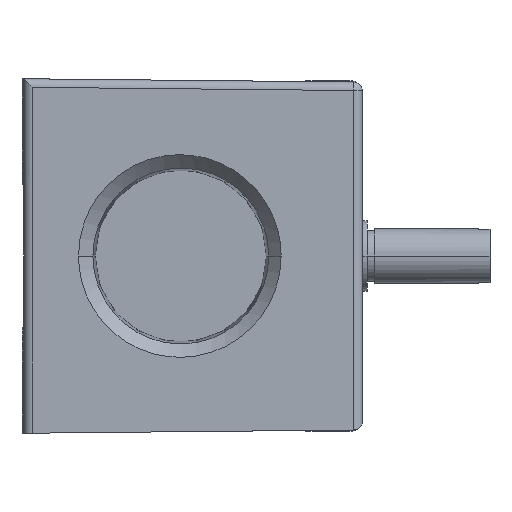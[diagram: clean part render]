
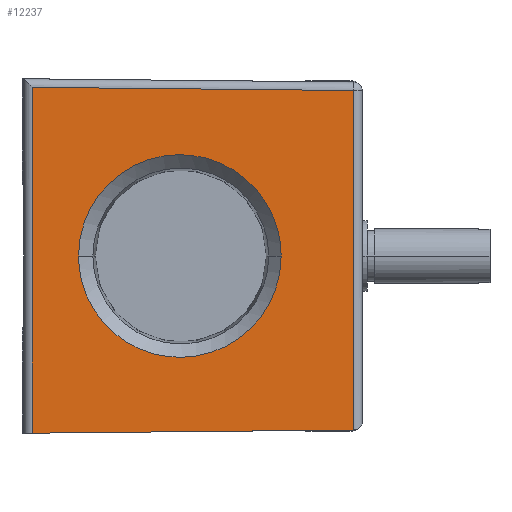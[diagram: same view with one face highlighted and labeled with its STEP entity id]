
A CAD part, front view. The second image highlights one B-rep face of the part: STEP entity #12237.
In plain terms, the highlighted planar face has unit normal (0.01, -1, 0).
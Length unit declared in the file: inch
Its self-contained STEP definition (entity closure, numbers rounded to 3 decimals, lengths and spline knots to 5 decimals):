
#3747=DIRECTION('',(0.,0.,1.));
#3748=VECTOR('',#3747,1.82891);
#3749=CARTESIAN_POINT('',(-0.79956,-3.68445,
-0.93695));
#3750=LINE('',#3749,#3748);
#3761=DIRECTION('',(-1.,-0.01,0.01));
#3762=VECTOR('',#3761,1.70017);
#3763=CARTESIAN_POINT('',(0.90044,-3.66769,
0.87519));
#3764=LINE('',#3763,#3762);
#3803=DIRECTION('',(-1.,-0.01,-0.01));
#3804=VECTOR('',#3803,1.70017);
#3805=CARTESIAN_POINT('',(0.90044,-3.66769,
-0.92019));
#3806=LINE('',#3805,#3804);
#3807=CARTESIAN_POINT('',(0.51549,-3.67149,0.));
#3808=CARTESIAN_POINT('',(0.51549,-3.67149,
-0.03157));
#3809=CARTESIAN_POINT('',(0.50988,-3.67154,
-0.09707));
#3810=CARTESIAN_POINT('',(0.48145,-3.67182,
-0.19781));
#3811=CARTESIAN_POINT('',(0.43154,-3.67231,
-0.2949));
#3812=CARTESIAN_POINT('',(0.3613,-3.67301,
-0.38156));
#3813=CARTESIAN_POINT('',(0.27463,-3.67386,
-0.45181));
#3814=CARTESIAN_POINT('',(0.19372,-3.67466,
-0.49338));
#3815=CARTESIAN_POINT('',(0.12716,-3.67531,
-0.51593));
#3816=CARTESIAN_POINT('',(0.0771,-3.67581,
-0.52763));
#3817=CARTESIAN_POINT('',(0.03591,-3.67621,
-0.53323));
#3818=CARTESIAN_POINT('',(0.00352,-3.67653,
-0.53539));
#3819=CARTESIAN_POINT('',(-0.02028,-3.67677,
-0.53592));
#3820=CARTESIAN_POINT('',(-0.04409,-3.677,
-0.53539));
#3821=CARTESIAN_POINT('',(-0.07647,-3.67732,
-0.53323));
#3822=CARTESIAN_POINT('',(-0.11767,-3.67773,
-0.52763));
#3823=CARTESIAN_POINT('',(-0.16773,-3.67822,
-0.51593));
#3824=CARTESIAN_POINT('',(-0.23429,-3.67888,
-0.49338));
#3825=CARTESIAN_POINT('',(-0.3152,-3.67968,
-0.45181));
#3826=CARTESIAN_POINT('',(-0.40187,-3.68053,
-0.38156));
#3827=CARTESIAN_POINT('',(-0.47211,-3.68122,
-0.2949));
#3828=CARTESIAN_POINT('',(-0.52201,-3.68172,
-0.19781));
#3829=CARTESIAN_POINT('',(-0.55044,-3.682,
-0.09707));
#3830=CARTESIAN_POINT('',(-0.55605,-3.68205,
-0.03157));
#3831=CARTESIAN_POINT('',(-0.55605,-3.68205,0.));
#3833=CARTESIAN_POINT('',(-0.55605,-3.68205,0.));
#3834=CARTESIAN_POINT('',(-0.55605,-3.68205,
0.03157));
#3835=CARTESIAN_POINT('',(-0.55044,-3.682,
0.09707));
#3836=CARTESIAN_POINT('',(-0.52201,-3.68172,
0.19781));
#3837=CARTESIAN_POINT('',(-0.47211,-3.68122,
0.2949));
#3838=CARTESIAN_POINT('',(-0.40187,-3.68053,
0.38156));
#3839=CARTESIAN_POINT('',(-0.3152,-3.67968,
0.45181));
#3840=CARTESIAN_POINT('',(-0.23429,-3.67888,
0.49338));
#3841=CARTESIAN_POINT('',(-0.16773,-3.67822,
0.51593));
#3842=CARTESIAN_POINT('',(-0.11767,-3.67773,
0.52763));
#3843=CARTESIAN_POINT('',(-0.07647,-3.67732,
0.53323));
#3844=CARTESIAN_POINT('',(-0.04409,-3.677,
0.53539));
#3845=CARTESIAN_POINT('',(-0.02028,-3.67677,
0.53592));
#3846=CARTESIAN_POINT('',(0.00352,-3.67653,
0.53539));
#3847=CARTESIAN_POINT('',(0.03591,-3.67621,
0.53323));
#3848=CARTESIAN_POINT('',(0.0771,-3.67581,
0.52763));
#3849=CARTESIAN_POINT('',(0.12716,-3.67531,
0.51593));
#3850=CARTESIAN_POINT('',(0.19372,-3.67466,
0.49338));
#3851=CARTESIAN_POINT('',(0.27463,-3.67386,
0.45181));
#3852=CARTESIAN_POINT('',(0.3613,-3.67301,
0.38156));
#3853=CARTESIAN_POINT('',(0.43154,-3.67231,
0.2949));
#3854=CARTESIAN_POINT('',(0.48145,-3.67182,
0.19781));
#3855=CARTESIAN_POINT('',(0.50988,-3.67154,
0.09707));
#3856=CARTESIAN_POINT('',(0.51549,-3.67149,
0.03157));
#3857=CARTESIAN_POINT('',(0.51549,-3.67149,0.));
#3863=DIRECTION('',(0.,0.,-1.));
#3864=VECTOR('',#3863,1.79538);
#3865=CARTESIAN_POINT('',(0.90044,-3.66769,
0.87519));
#3866=LINE('',#3865,#3864);
#6644=CARTESIAN_POINT('',(0.51549,-3.67149,0.));
#6645=VERTEX_POINT('',#6644);
#6646=CARTESIAN_POINT('',(-0.55605,-3.68205,0.));
#6647=VERTEX_POINT('',#6646);
#6716=CARTESIAN_POINT('',(0.90044,-3.66769,
0.87519));
#6717=CARTESIAN_POINT('',(0.90044,-3.66769,
-0.92019));
#6718=VERTEX_POINT('',#6716);
#6719=VERTEX_POINT('',#6717);
#6730=CARTESIAN_POINT('',(-0.79956,-3.68445,
0.89196));
#6731=VERTEX_POINT('',#6730);
#6736=CARTESIAN_POINT('',(-0.79956,-3.68445,
-0.93695));
#6737=VERTEX_POINT('',#6736);
#12219=CARTESIAN_POINT('',(-0.855,-3.685,-1.9922));
#12220=DIRECTION('',(0.01,-1.,0.));
#12221=DIRECTION('',(0.,0.,1.));
#12222=AXIS2_PLACEMENT_3D('',#12219,#12220,#12221);
#12223=PLANE('',#12222);
#12225=ORIENTED_EDGE('',*,*,#12224,.T.);
#12226=ORIENTED_EDGE('',*,*,#12067,.T.);
#12227=ORIENTED_EDGE('',*,*,#12198,.T.);
#12228=ORIENTED_EDGE('',*,*,#12209,.F.);
#12229=EDGE_LOOP('',(#12225,#12226,#12227,#12228));
#12230=FACE_OUTER_BOUND('',#12229,.F.);
#12232=ORIENTED_EDGE('',*,*,#12231,.F.);
#12234=ORIENTED_EDGE('',*,*,#12233,.F.);
#12235=EDGE_LOOP('',(#12232,#12234));
#12236=FACE_BOUND('',#12235,.F.);
#12237=ADVANCED_FACE('',(#12230,#12236),#12223,.T.);
#3832=B_SPLINE_CURVE_WITH_KNOTS('',3,(#3807,#3808,#3809,#3810,#3811,#3812,#3813,
#3814,#3815,#3816,#3817,#3818,#3819,#3820,#3821,#3822,#3823,#3824,#3825,#3826,
#3827,#3828,#3829,#3830,#3831),.UNSPECIFIED.,.F.,.F.,(4,1,1,1,1,1,1,1,1,1,1,1,1,
1,1,1,1,1,1,1,1,1,4),(0.,0.0625,0.125,0.1875,0.25,0.3125,0.375,
0.40625,0.4375,0.46875,0.48438,0.5,0.51563,0.53125,0.5625,
0.59375,0.625,0.6875,0.75,0.8125,0.875,0.9375,1.),
.UNSPECIFIED.);
#3858=B_SPLINE_CURVE_WITH_KNOTS('',3,(#3833,#3834,#3835,#3836,#3837,#3838,#3839,
#3840,#3841,#3842,#3843,#3844,#3845,#3846,#3847,#3848,#3849,#3850,#3851,#3852,
#3853,#3854,#3855,#3856,#3857),.UNSPECIFIED.,.F.,.F.,(4,1,1,1,1,1,1,1,1,1,1,1,1,
1,1,1,1,1,1,1,1,1,4),(0.,0.0625,0.125,0.1875,0.25,0.3125,0.375,
0.40625,0.4375,0.46875,0.48438,0.5,0.51563,0.53125,0.5625,
0.59375,0.625,0.6875,0.75,0.8125,0.875,0.9375,1.),
.UNSPECIFIED.);
#12067=EDGE_CURVE('',#6719,#6737,#3806,.T.);
#12198=EDGE_CURVE('',#6737,#6731,#3750,.T.);
#12209=EDGE_CURVE('',#6718,#6731,#3764,.T.);
#12224=EDGE_CURVE('',#6718,#6719,#3866,.T.);
#12231=EDGE_CURVE('',#6645,#6647,#3832,.T.);
#12233=EDGE_CURVE('',#6647,#6645,#3858,.T.);
